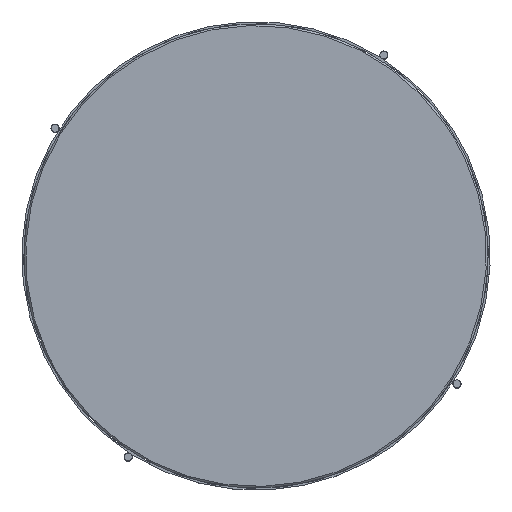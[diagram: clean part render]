
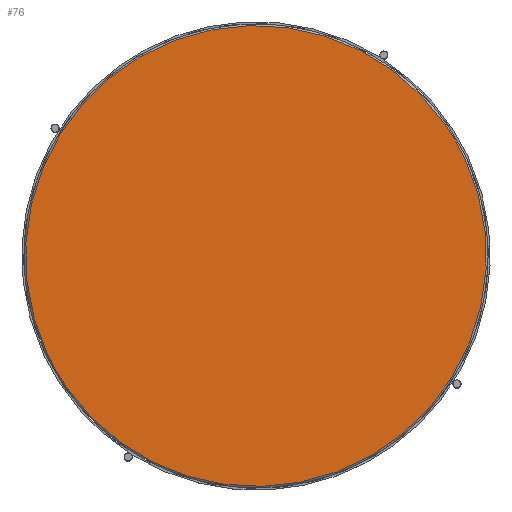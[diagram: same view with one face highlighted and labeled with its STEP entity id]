
A CAD part, top view. The second image highlights one B-rep face of the part: STEP entity #76.
In plain terms, the highlighted planar face has unit normal (0, 0, 1).
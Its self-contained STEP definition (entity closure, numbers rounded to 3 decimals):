
#12=B_SPLINE_CURVE_WITH_KNOTS('',3,(#1538,#1539,#1540,#1541,#1542,#1543,
#1544,#1545,#1546,#1547,#1548,#1549,#1550,#1551,#1552,#1553,#1554,#1555,
#1556,#1557,#1558,#1559,#1560,#1561,#1562,#1563,#1564,#1565,#1566,#1567,
#1568,#1569,#1570,#1571,#1572,#1573,#1574,#1575,#1576,#1577,#1578,#1579),
 .UNSPECIFIED.,.F.,.F.,(4,1,1,1,1,1,1,1,1,1,1,1,1,1,1,1,1,1,1,1,1,1,1,1,
1,1,1,1,1,1,1,1,1,1,1,1,1,1,1,4),(0.,72.022,148.372,
227.907,268.521,309.135,349.749,390.363,
430.131,469.898,508.073,546.247,582.259,
618.27,654.281,690.292,709.38,728.467,
747.555,766.642,786.526,806.409,846.177,
866.484,886.791,907.098,927.405,968.019,
988.326,1008.633,1028.517,1048.4,1088.168,
1107.255,1126.343,1145.43,1164.517,1182.523,
1200.529,1236.54),.UNSPECIFIED.);
#14=B_SPLINE_CURVE_WITH_KNOTS('',3,(#1594,#1595,#1596,#1597,#1598,#1599,
#1600,#1601,#1602,#1603,#1604,#1605,#1606,#1607,#1608,#1609,#1610,#1611,
#1612,#1613,#1614,#1615,#1616,#1617,#1618,#1619,#1620,#1621,#1622,#1623,
#1624,#1625,#1626,#1627,#1628,#1629,#1630,#1631,#1632,#1633,#1634,#1635,
#1636),.UNSPECIFIED.,.F.,.F.,(4,1,1,1,1,1,1,1,1,1,1,1,1,1,1,1,1,1,1,1,1,
1,1,1,1,1,1,1,1,1,1,1,1,1,1,1,1,1,1,1,4),(1236.54,1254.545,
1272.551,1290.557,1308.562,1346.737,1384.912,
1404.796,1424.679,1444.563,1464.446,1484.754,
1505.061,1545.675,1565.982,1586.289,1606.596,
1626.903,1666.67,1706.438,1744.612,1782.787,
1800.793,1818.798,1854.81,1890.821,1926.832,
1965.007,2003.182,2042.949,2082.716,2123.331,
2163.945,2204.559,2245.173,2284.94,2324.707,
2362.882,2401.057,2437.068,2473.08),
 .UNSPECIFIED.);
#76=ADVANCED_FACE('',(#120),#553,.T.);
#120=FACE_OUTER_BOUND('',#166,.T.);
#166=EDGE_LOOP('',(#288,#289));
#288=ORIENTED_EDGE('',*,*,#387,.F.);
#289=ORIENTED_EDGE('',*,*,#382,.F.);
#382=EDGE_CURVE('',#504,#507,#12,.T.);
#387=EDGE_CURVE('',#507,#504,#14,.T.);
#504=VERTEX_POINT('',#1520);
#507=VERTEX_POINT('',#1523);
#553=PLANE('',#589);
#589=AXIS2_PLACEMENT_3D('',#1337,#608,$);
#608=DIRECTION('',(0.,0.,1.));
#1337=CARTESIAN_POINT('',(954.772,-239.012,399.6));
#1520=CARTESIAN_POINT('',(652.198,166.765,399.6));
#1523=CARTESIAN_POINT('',(-60.86,-166.765,399.6));
#1538=CARTESIAN_POINT('',(652.198,166.765,399.6));
#1539=CARTESIAN_POINT('',(662.37,145.019,399.6));
#1540=CARTESIAN_POINT('',(679.214,98.298,399.6));
#1541=CARTESIAN_POINT('',(691.191,22.916,399.6));
#1542=CARTESIAN_POINT('',(688.526,-42.864,399.6));
#1543=CARTESIAN_POINT('',(678.223,-95.525,399.6));
#1544=CARTESIAN_POINT('',(666.352,-134.422,399.6));
#1545=CARTESIAN_POINT('',(650.533,-171.888,399.6));
#1546=CARTESIAN_POINT('',(631.078,-207.278,399.6));
#1547=CARTESIAN_POINT('',(608.277,-240.266,399.6));
#1548=CARTESIAN_POINT('',(582.794,-270.166,399.6));
#1549=CARTESIAN_POINT('',(554.865,-297.03,399.6));
#1550=CARTESIAN_POINT('',(525.451,-320.286,399.6));
#1551=CARTESIAN_POINT('',(494.588,-340.276,399.6));
#1552=CARTESIAN_POINT('',(462.667,-357.027,399.6));
#1553=CARTESIAN_POINT('',(429.349,-370.791,399.6));
#1554=CARTESIAN_POINT('',(400.308,-379.783,399.6));
#1555=CARTESIAN_POINT('',(376.225,-385.429,399.6));
#1556=CARTESIAN_POINT('',(357.446,-388.881,399.6));
#1557=CARTESIAN_POINT('',(338.523,-391.418,399.6));
#1558=CARTESIAN_POINT('',(319.234,-393.058,399.6));
#1559=CARTESIAN_POINT('',(299.621,-393.751,399.6));
#1560=CARTESIAN_POINT('',(273.104,-393.347,399.6));
#1561=CARTESIAN_POINT('',(246.528,-390.922,399.6));
#1562=CARTESIAN_POINT('',(220.1,-386.458,399.6));
#1563=CARTESIAN_POINT('',(200.271,-382.047,399.6));
#1564=CARTESIAN_POINT('',(180.695,-376.619,399.6));
#1565=CARTESIAN_POINT('',(155.003,-368.046,399.6));
#1566=CARTESIAN_POINT('',(130.026,-357.501,399.6));
#1567=CARTESIAN_POINT('',(105.962,-345.068,399.6));
#1568=CARTESIAN_POINT('',(88.541,-334.897,399.6));
#1569=CARTESIAN_POINT('',(71.781,-323.928,399.6));
#1570=CARTESIAN_POINT('',(50.352,-308.303,399.6));
#1571=CARTESIAN_POINT('',(30.351,-291.257,399.6));
#1572=CARTESIAN_POINT('',(11.886,-272.969,399.6));
#1573=CARTESIAN_POINT('',(-1.012,-258.892,399.6));
#1574=CARTESIAN_POINT('',(-13.213,-244.206,399.6));
#1575=CARTESIAN_POINT('',(-24.471,-229.234,399.6));
#1576=CARTESIAN_POINT('',(-34.808,-214.047,399.6));
#1577=CARTESIAN_POINT('',(-47.399,-193.599,399.6));
#1578=CARTESIAN_POINT('',(-55.774,-177.638,399.6));
#1579=CARTESIAN_POINT('',(-60.86,-166.765,399.6));
#1594=CARTESIAN_POINT('',(-60.86,-166.765,399.6));
#1595=CARTESIAN_POINT('',(-63.403,-161.329,399.6));
#1596=CARTESIAN_POINT('',(-68.24,-150.339,399.6));
#1597=CARTESIAN_POINT('',(-74.734,-133.54,399.6));
#1598=CARTESIAN_POINT('',(-80.453,-116.462,399.6));
#1599=CARTESIAN_POINT('',(-87.227,-92.673,399.6));
#1600=CARTESIAN_POINT('',(-93.67,-61.85,399.6));
#1601=CARTESIAN_POINT('',(-97.163,-29.925,399.6));
#1602=CARTESIAN_POINT('',(-98.082,-3.952,399.6));
#1603=CARTESIAN_POINT('',(-97.779,15.935,399.6));
#1604=CARTESIAN_POINT('',(-96.472,35.782,399.6));
#1605=CARTESIAN_POINT('',(-94.149,55.678,399.6));
#1606=CARTESIAN_POINT('',(-90.789,75.569,399.6));
#1607=CARTESIAN_POINT('',(-84.908,102.008,399.6));
#1608=CARTESIAN_POINT('',(-76.992,127.939,399.6));
#1609=CARTESIAN_POINT('',(-67.104,153.155,399.6));
#1610=CARTESIAN_POINT('',(-58.724,171.659,399.6));
#1611=CARTESIAN_POINT('',(-49.399,189.707,399.6));
#1612=CARTESIAN_POINT('',(-35.886,212.853,399.6));
#1613=CARTESIAN_POINT('',(-16.939,240.266,399.6));
#1614=CARTESIAN_POINT('',(8.544,270.166,399.6));
#1615=CARTESIAN_POINT('',(36.472,297.03,399.6));
#1616=CARTESIAN_POINT('',(61.174,316.559,399.6));
#1617=CARTESIAN_POINT('',(81.622,330.477,399.6));
#1618=CARTESIAN_POINT('',(102.07,343.067,399.6));
#1619=CARTESIAN_POINT('',(128.671,357.027,399.6));
#1620=CARTESIAN_POINT('',(161.989,370.79,399.6));
#1621=CARTESIAN_POINT('',(197.114,381.667,399.6));
#1622=CARTESIAN_POINT('',(233.819,389.338,399.6));
#1623=CARTESIAN_POINT('',(272.34,393.556,399.6));
#1624=CARTESIAN_POINT('',(311.625,393.95,399.6));
#1625=CARTESIAN_POINT('',(351.559,390.306,399.6));
#1626=CARTESIAN_POINT('',(391.194,382.556,399.6));
#1627=CARTESIAN_POINT('',(430.09,370.681,399.6));
#1628=CARTESIAN_POINT('',(467.557,354.865,399.6));
#1629=CARTESIAN_POINT('',(502.946,335.408,399.6));
#1630=CARTESIAN_POINT('',(535.935,312.608,399.6));
#1631=CARTESIAN_POINT('',(565.835,287.125,399.6));
#1632=CARTESIAN_POINT('',(592.699,259.197,399.6));
#1633=CARTESIAN_POINT('',(615.955,229.782,399.6));
#1634=CARTESIAN_POINT('',(635.945,198.919,399.6));
#1635=CARTESIAN_POINT('',(647.112,177.638,399.6));
#1636=CARTESIAN_POINT('',(652.198,166.765,399.6));
